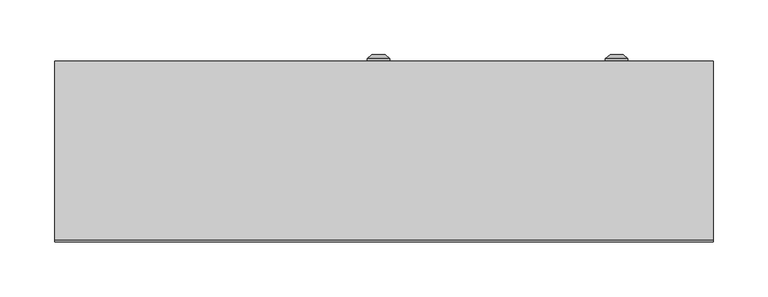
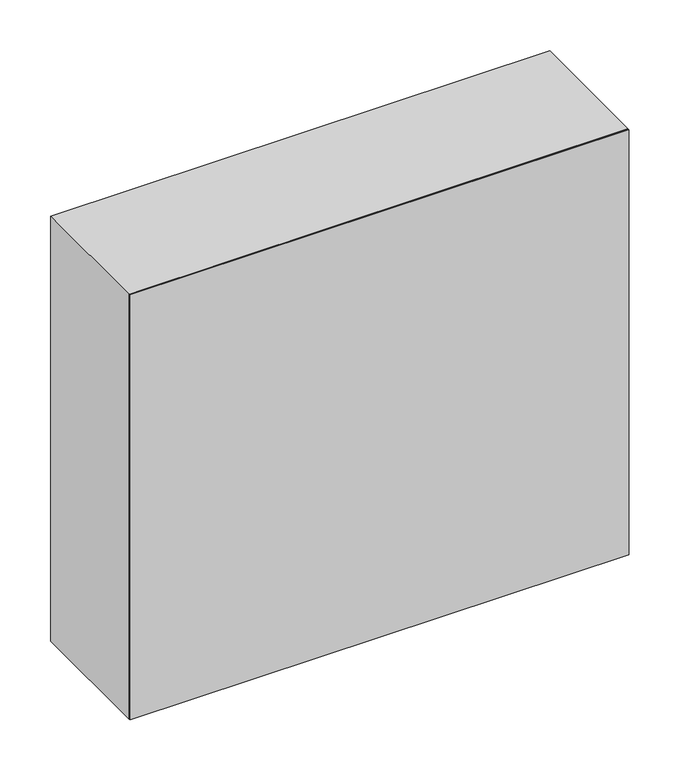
"""IFC4 building model written with IfcOpenShell, lengths in millimetres: proxy geometry, ЩУРН-3_48 : ЩУРН-3/48."""

from ifc_helpers import new_model, si_unit, point, frame, frame_2d, origin, origin_with_axes, place, context, project, spatial, polyline, circle_curve, trimmed, segment, composite_curve, outline, extrude, source, transform, mapped, element, save
from ifc_brep_helpers import plane_surface, cylinder_surface, revolved_surface, advanced_brep


def electrical_equipment_a8e0ab59(model_context):
    return source(origin(), model_context, "Body", "SolidModel", [
        advanced_brep(
        [(-15.330127, 165.0, 270.0), (5.330127, 165.0, 270.0), (-5.0, 165.0, 270.0), (-6.8919529, 171.0, 270.0), (-3.1080471, 171.0, 270.0), (1.0, 171.0, 270.0), (-11.0, 171.0, 270.0), (-6.8919529, 169.9822294, 270.0), (-3.1080471, 169.9822294, 270.0), (-5.0, 169.9822294, 270.0), (-15.330127, 167.366592, 270.0), (5.330127, 167.366592, 270.0)],
        [
            (0, 1, circle_curve(frame((-5.0, 165.0, 270.0), z_axis=(0.0, -1.0, 0.0), x_axis=(1.0, 0.0, 0.0)), 10.330127)),
            (1, 2),
            (2, 0),
            (1, 0, circle_curve(frame((-5.0, 165.0, 270.0), z_axis=(0.0, -1.0, 0.0), x_axis=(1.0, 0.0, 0.0)), 10.330127)),
            (3, 4, circle_curve(frame((-5.0, 171.0, 270.0), z_axis=(0.0, -1.0, 0.0), x_axis=(1.0, 0.0, 0.0)), 1.8919529)),
            (4, 5),
            (5, 6, circle_curve(frame((-5.0, 171.0, 270.0), z_axis=(0.0, 1.0, 0.0), x_axis=(1.0, 0.0, 0.0)), 6.0)),
            (6, 3),
            (4, 3, circle_curve(frame((-5.0, 171.0, 270.0), z_axis=(0.0, -1.0, 0.0), x_axis=(1.0, 0.0, 0.0)), 1.8919529)),
            (6, 5, circle_curve(frame((-5.0, 171.0, 270.0), z_axis=(0.0, 1.0, 0.0), x_axis=(1.0, 0.0, 0.0)), 6.0)),
            (7, 8, circle_curve(frame((-5.0, 169.9822294, 270.0), z_axis=(0.0, -1.0, 0.0), x_axis=(1.0, 0.0, 0.0)), 1.8919529)),
            (8, 4),
            (3, 7),
            (8, 7, circle_curve(frame((-5.0, 169.9822294, 270.0), z_axis=(0.0, -1.0, 0.0), x_axis=(1.0, 0.0, 0.0)), 1.8919529)),
            (9, 8),
            (7, 9),
            (10, 11, circle_curve(frame((-5.0, 167.366592, 270.0), z_axis=(0.0, -1.0, 0.0), x_axis=(1.0, 0.0, 0.0)), 10.330127)),
            (11, 1),
            (0, 10),
            (11, 10, circle_curve(frame((-5.0, 167.366592, 270.0), z_axis=(0.0, -1.0, 0.0), x_axis=(1.0, 0.0, 0.0)), 10.330127)),
            (5, 11),
            (10, 6),
        ],
        [
            plane_surface(frame((-5.0, 165.0, 270.0), z_axis=(0.0, -1.0, 0.0), x_axis=(1.0, 0.0, 0.0))),
            plane_surface(frame((-5.0, 171.0, 270.0), z_axis=(0.0, 1.0, 0.0), x_axis=(1.0, 0.0, 0.0))),
            revolved_surface(polyline([(-3.1080471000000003, 171.0, 270.0), (-3.1080471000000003, 169.9822294, 270.0)]), (-5.0, 178.1348851, 270.0), (0.0, 1.0, 0.0)),
            plane_surface(frame((-5.0, 169.9822294, 270.0), z_axis=(0.0, 1.0, 0.0), x_axis=(1.0, 0.0, 0.0))),
            cylinder_surface(frame((-5.0, 178.1348851, 270.0), z_axis=(0.0, 1.0, 0.0), x_axis=(1.0, 0.0, 0.0)), 10.330127),
            revolved_surface(polyline([(5.330127, 167.366592, 270.0), (1.0, 171.0, 270.0)]), (-5.0, 178.1348851, 270.0), (0.0, 1.0, 0.0)),
        ],
        [
            (0, [[1, 2, 3]]),
            (0, [[4, -3, -2]]),
            (1, [[5, 6, 7, 8]]),
            (1, [[9, -8, 10, -6]]),
            (2, [[11, 12, -5, 13]]),
            (2, [[14, -13, -9, -12]]),
            (3, [[15, -11, 16]]),
            (3, [[-16, -14, -15]]),
            (4, [[17, 18, -1, 19]]),
            (4, [[20, -19, -4, -18]]),
            (5, [[-7, 21, -17, 22]]),
            (5, [[-10, -22, -20, -21]]),
        ],
    ),
        advanced_brep(
        [(201.669873, 165.0, 270.0), (222.330127, 165.0, 270.0), (212.0, 165.0, 270.0), (210.1080471, 171.0, 270.0), (213.8919529, 171.0, 270.0), (218.0, 171.0, 270.0), (206.0, 171.0, 270.0), (210.1080471, 169.9822294, 270.0), (213.8919529, 169.9822294, 270.0), (212.0, 169.9822294, 270.0), (201.669873, 167.366592, 270.0), (222.330127, 167.366592, 270.0)],
        [
            (0, 1, circle_curve(frame((212.0, 165.0, 270.0), z_axis=(0.0, -1.0, 0.0), x_axis=(1.0, 0.0, 0.0)), 10.330127)),
            (1, 2),
            (2, 0),
            (1, 0, circle_curve(frame((212.0, 165.0, 270.0), z_axis=(0.0, -1.0, 0.0), x_axis=(1.0, 0.0, 0.0)), 10.330127)),
            (3, 4, circle_curve(frame((212.0, 171.0, 270.0), z_axis=(0.0, -1.0, 0.0), x_axis=(1.0, 0.0, 0.0)), 1.8919529)),
            (4, 5),
            (5, 6, circle_curve(frame((212.0, 171.0, 270.0), z_axis=(0.0, 1.0, 0.0), x_axis=(1.0, 0.0, 0.0)), 6.0)),
            (6, 3),
            (4, 3, circle_curve(frame((212.0, 171.0, 270.0), z_axis=(0.0, -1.0, 0.0), x_axis=(1.0, 0.0, 0.0)), 1.8919529)),
            (6, 5, circle_curve(frame((212.0, 171.0, 270.0), z_axis=(0.0, 1.0, 0.0), x_axis=(1.0, 0.0, 0.0)), 6.0)),
            (7, 8, circle_curve(frame((212.0, 169.9822294, 270.0), z_axis=(0.0, -1.0, 0.0), x_axis=(1.0, 0.0, 0.0)), 1.8919529)),
            (8, 4),
            (3, 7),
            (8, 7, circle_curve(frame((212.0, 169.9822294, 270.0), z_axis=(0.0, -1.0, 0.0), x_axis=(1.0, 0.0, 0.0)), 1.8919529)),
            (9, 8),
            (7, 9),
            (10, 11, circle_curve(frame((212.0, 167.366592, 270.0), z_axis=(0.0, -1.0, 0.0), x_axis=(1.0, 0.0, 0.0)), 10.330127)),
            (11, 1),
            (0, 10),
            (11, 10, circle_curve(frame((212.0, 167.366592, 270.0), z_axis=(0.0, -1.0, 0.0), x_axis=(1.0, 0.0, 0.0)), 10.330127)),
            (5, 11),
            (10, 6),
        ],
        [
            plane_surface(frame((212.0, 165.0, 270.0), z_axis=(0.0, -1.0, 0.0), x_axis=(1.0, 0.0, 0.0))),
            plane_surface(frame((212.0, 171.0, 270.0), z_axis=(0.0, 1.0, 0.0), x_axis=(1.0, 0.0, 0.0))),
            revolved_surface(polyline([(213.8919529, 171.0, 270.0), (213.8919529, 169.9822294, 270.0)]), (212.0, 178.1348851, 270.0), (0.0, 1.0, 0.0)),
            plane_surface(frame((212.0, 169.9822294, 270.0), z_axis=(0.0, 1.0, 0.0), x_axis=(1.0, 0.0, 0.0))),
            cylinder_surface(frame((212.0, 178.1348851, 270.0), z_axis=(0.0, 1.0, 0.0), x_axis=(1.0, 0.0, 0.0)), 10.330127),
            revolved_surface(polyline([(222.330127, 167.366592, 270.0), (218.0, 171.0, 270.0)]), (212.0, 178.1348851, 270.0), (0.0, 1.0, 0.0)),
        ],
        [
            (0, [[1, 2, 3]]),
            (0, [[4, -3, -2]]),
            (1, [[5, 6, 7, 8]]),
            (1, [[9, -8, 10, -6]]),
            (2, [[11, 12, -5, 13]]),
            (2, [[14, -13, -9, -12]]),
            (3, [[15, -11, 16]]),
            (3, [[-16, -14, -15]]),
            (4, [[17, 18, -1, 19]]),
            (4, [[20, -19, -4, -18]]),
            (5, [[-7, 21, -17, 22]]),
            (5, [[-10, -22, -20, -21]]),
        ],
    ),
        extrude(outline(polyline([(19.0, 163.0), (-284.0, 163.0), (-284.0, 165.0), (19.0, 165.0), (19.0, 163.0)])), frame((0.0, 0.0, 16.0), z_axis=(0.0, 0.0, 1.0), x_axis=(1.0, 0.0, 0.0)), (0.0, 0.0, 1.0), 508.0),
        extrude(outline(polyline([(524.0, 24.0), (16.0, 24.0), (16.0, 284.0), (524.0, 284.0), (524.0, 24.0)]), holes=[composite_curve([segment(polyline([(425.5, 115.0), (425.5, 145.0), (425.5, 175.0)]), True, "CONTINUOUS"), segment(trimmed(circle_curve(frame_2d((415.5, 175.0)), 10.0), [point((425.5, 175.0))], [point((415.5, 185.0))], True, "CARTESIAN"), True, "CONTINUOUS"), segment(polyline([(415.5, 185.0), (385.5, 185.0)]), True, "CONTINUOUS"), segment(trimmed(circle_curve(frame_2d((385.5, 175.0)), 10.0), [point((385.5, 185.0))], [point((375.5, 175.0))], True, "CARTESIAN"), True, "CONTINUOUS"), segment(polyline([(375.5, 175.0), (375.5, 115.0)]), True, "CONTINUOUS"), segment(trimmed(circle_curve(frame_2d((385.5, 115.0)), 10.0), [point((375.5, 115.0))], [point((385.5, 105.0))], True, "CARTESIAN"), True, "CONTINUOUS"), segment(polyline([(385.5, 105.0), (415.5, 105.0)]), True, "CONTINUOUS"), segment(trimmed(circle_curve(frame_2d((415.5, 115.0)), 10.0), [point((415.5, 105.0))], [point((425.5, 115.0))], True, "CARTESIAN"), True, "CONTINUOUS")], self_intersect=False)]), frame((0.0, 163.0, 0.0), z_axis=(0.0, 1.0, 0.0), x_axis=(0.0, 0.0, 1.0)), (0.0, 0.0, 1.0), 2.0),
        extrude(outline(polyline([(540.0, -300.0033905), (0.0, -300.0033905), (0.0, 299.9966095), (540.0, 299.9966095), (540.0, -300.0033905)]), holes=[polyline([(525.0, -285.0), (525.0, 285.0), (15.0, 285.0), (15.0, -285.0), (525.0, -285.0)])]), frame((0.0, 2.0, 0.0), z_axis=(0.0, 1.0, 0.0), x_axis=(0.0, 0.0, 1.0)), (0.0, 0.0, 1.0), 163.0),
        extrude(outline(polyline([(300.0, 0.0), (-300.0, 0.0), (-300.0, 2.0), (300.0, 2.0), (300.0, 0.0)])), origin_with_axes(), (0.0, 0.0, 1.0), 540.0),
    ])


if __name__ == "__main__":
    model = new_model("IFC4")
    model_context = context("Model", 3, world=origin())
    ifc_project = project(units=[si_unit("LENGTHUNIT", "METRE", prefix="MILLI")], contexts=[model_context])
    site = spatial("IfcSite", under=ifc_project)
    building = spatial("IfcBuilding", under=site)
    placement = place(None, origin())
    electrical_equipment_shape = electrical_equipment_a8e0ab59(model_context)
    element("IfcBuildingElementProxy", 1, Name="ЩУРН-3_48 : ЩУРН-3/48", ObjectType="ЩУРН-3_48 : ЩУРН-3/48", at=placement, inside=building, context=model_context, shape_type="MappedRepresentation", body=[
        mapped(electrical_equipment_shape, transform((0.0, 0.0, 0.0), x_axis=(1.0, 0.0, 0.0), y_axis=(0.0, 1.0, 0.0), z_axis=(0.0, 0.0, 1.0))),
    ])
    save(model, "model.ifc")
